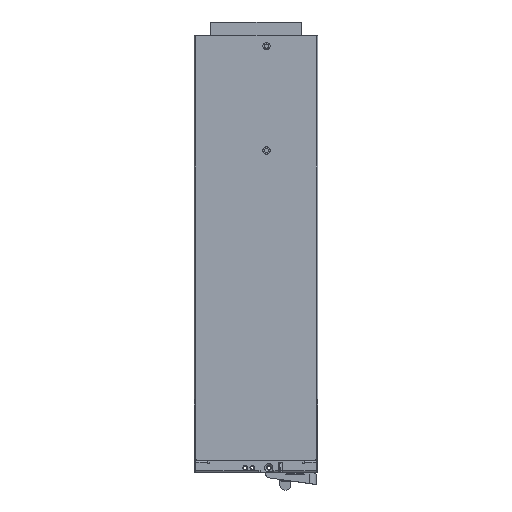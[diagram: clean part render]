
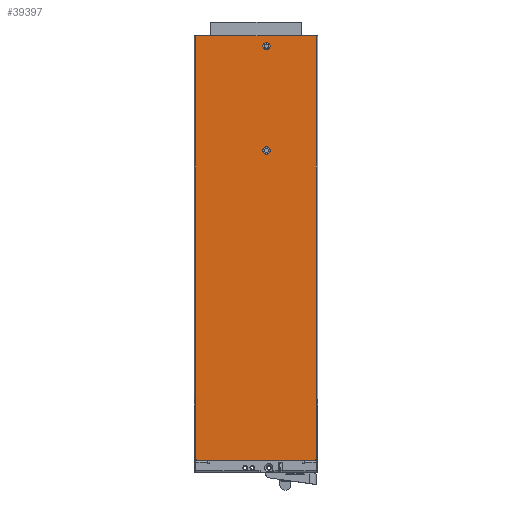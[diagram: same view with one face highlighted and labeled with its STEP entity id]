
A CAD part, top view. The second image highlights one B-rep face of the part: STEP entity #39397.
In plain terms, the highlighted planar face has unit normal (0, 0, 1) as drawn and (-1, 0, 0) by its records, which use the part's own axes.
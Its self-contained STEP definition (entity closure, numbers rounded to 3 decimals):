
#34458=DIRECTION('',(0.,1.,0.));
#34459=VECTOR('',#34458,249.8);
#34460=CARTESIAN_POINT('',(73.837,98.952,2.1));
#34461=LINE('',#34460,#34459);
#34472=DIRECTION('',(0.,1.,0.));
#34473=VECTOR('',#34472,41.1);
#34474=CARTESIAN_POINT('',(73.837,57.852,84.85));
#34475=LINE('',#34474,#34473);
#34479=CARTESIAN_POINT('',(73.837,57.852,83.85));
#34480=DIRECTION('',(-1.,0.,0.));
#34481=DIRECTION('',(0.,-1.,0.));
#34482=AXIS2_PLACEMENT_3D('',#34479,#34480,#34481);
#34487=CARTESIAN_POINT('',(73.837,57.852,3.15));
#34488=DIRECTION('',(-1.,0.,0.));
#34489=DIRECTION('',(0.,0.,-1.));
#34490=AXIS2_PLACEMENT_3D('',#34487,#34488,#34489);
#34495=CARTESIAN_POINT('',(73.837,341.689,50.75));
#34496=DIRECTION('',(1.,0.,0.));
#34497=DIRECTION('',(0.,-1.,0.));
#34498=AXIS2_PLACEMENT_3D('',#34495,#34496,#34497);
#34503=CARTESIAN_POINT('',(73.837,341.689,50.75));
#34504=DIRECTION('',(1.,0.,0.));
#34505=DIRECTION('',(0.,1.,0.));
#34506=AXIS2_PLACEMENT_3D('',#34503,#34504,#34505);
#34511=CARTESIAN_POINT('',(73.837,269.939,50.75));
#34512=DIRECTION('',(1.,0.,0.));
#34513=DIRECTION('',(0.,-1.,0.));
#34514=AXIS2_PLACEMENT_3D('',#34511,#34512,#34513);
#34519=CARTESIAN_POINT('',(73.837,269.939,50.75));
#34520=DIRECTION('',(1.,0.,0.));
#34521=DIRECTION('',(0.,1.,0.));
#34522=AXIS2_PLACEMENT_3D('',#34519,#34520,#34521);
#34534=DIRECTION('',(0.,1.,0.));
#34535=VECTOR('',#34534,41.1);
#34536=CARTESIAN_POINT('',(73.837,57.852,2.15));
#34537=LINE('',#34536,#34535);
#34556=DIRECTION('',(0.,0.,-1.));
#34557=VECTOR('',#34556,0.05);
#34558=CARTESIAN_POINT('',(73.837,98.952,2.15));
#34559=LINE('',#34558,#34557);
#34773=DIRECTION('',(0.,0.,-1.));
#34774=VECTOR('',#34773,0.05);
#34775=CARTESIAN_POINT('',(73.837,98.952,84.9));
#34776=LINE('',#34775,#34774);
#34872=DIRECTION('',(0.,0.,1.));
#34873=VECTOR('',#34872,82.8);
#34874=CARTESIAN_POINT('',(73.837,348.752,2.1));
#34875=LINE('',#34874,#34873);
#35116=DIRECTION('',(0.,-1.,0.));
#35117=VECTOR('',#35116,249.8);
#35118=CARTESIAN_POINT('',(73.837,348.752,84.9));
#35119=LINE('',#35118,#35117);
#35158=DIRECTION('',(0.,0.,-1.));
#35159=VECTOR('',#35158,80.7);
#35160=CARTESIAN_POINT('',(73.837,56.852,83.85));
#35161=LINE('',#35160,#35159);
#38681=CARTESIAN_POINT('',(73.837,98.952,2.1));
#38682=VERTEX_POINT('',#38681);
#38683=CARTESIAN_POINT('',(73.837,348.752,2.1));
#38684=VERTEX_POINT('',#38683);
#38721=CARTESIAN_POINT('',(73.837,348.752,84.9));
#38722=VERTEX_POINT('',#38721);
#38763=CARTESIAN_POINT('',(73.837,98.952,84.9));
#38764=VERTEX_POINT('',#38763);
#38765=CARTESIAN_POINT('',(73.837,56.852,83.85));
#38766=CARTESIAN_POINT('',(73.837,56.852,3.15));
#38767=VERTEX_POINT('',#38765);
#38768=VERTEX_POINT('',#38766);
#38775=CARTESIAN_POINT('',(73.837,98.952,84.85));
#38776=VERTEX_POINT('',#38775);
#38799=CARTESIAN_POINT('',(73.837,98.952,2.15));
#38800=VERTEX_POINT('',#38799);
#38801=CARTESIAN_POINT('',(73.837,57.852,2.15));
#38802=VERTEX_POINT('',#38801);
#38803=CARTESIAN_POINT('',(73.837,344.189,50.75));
#38804=CARTESIAN_POINT('',(73.837,339.189,50.75));
#38805=VERTEX_POINT('',#38803);
#38806=VERTEX_POINT('',#38804);
#38807=CARTESIAN_POINT('',(73.837,272.439,50.75));
#38808=CARTESIAN_POINT('',(73.837,267.439,50.75));
#38809=VERTEX_POINT('',#38807);
#38810=VERTEX_POINT('',#38808);
#38811=CARTESIAN_POINT('',(73.837,57.852,84.85));
#38812=VERTEX_POINT('',#38811);
#39359=CARTESIAN_POINT('',(73.837,92.252,2.15));
#39360=DIRECTION('',(-1.,0.,0.));
#39361=DIRECTION('',(0.,0.,1.));
#39362=AXIS2_PLACEMENT_3D('',#39359,#39360,#39361);
#39363=PLANE('',#39362);
#39365=ORIENTED_EDGE('',*,*,#39364,.T.);
#39367=ORIENTED_EDGE('',*,*,#39366,.T.);
#39368=ORIENTED_EDGE('',*,*,#39349,.T.);
#39370=ORIENTED_EDGE('',*,*,#39369,.T.);
#39372=ORIENTED_EDGE('',*,*,#39371,.T.);
#39374=ORIENTED_EDGE('',*,*,#39373,.T.);
#39376=ORIENTED_EDGE('',*,*,#39375,.F.);
#39378=ORIENTED_EDGE('',*,*,#39377,.F.);
#39380=ORIENTED_EDGE('',*,*,#39379,.T.);
#39382=ORIENTED_EDGE('',*,*,#39381,.F.);
#39383=EDGE_LOOP('',(#39365,#39367,#39368,#39370,#39372,#39374,#39376,#39378,
#39380,#39382));
#39384=FACE_OUTER_BOUND('',#39383,.F.);
#39386=ORIENTED_EDGE('',*,*,#39385,.F.);
#39388=ORIENTED_EDGE('',*,*,#39387,.F.);
#39389=EDGE_LOOP('',(#39386,#39388));
#39390=FACE_BOUND('',#39389,.F.);
#39392=ORIENTED_EDGE('',*,*,#39391,.F.);
#39394=ORIENTED_EDGE('',*,*,#39393,.F.);
#39395=EDGE_LOOP('',(#39392,#39394));
#39396=FACE_BOUND('',#39395,.F.);
#34483=CIRCLE('',#34482,1.);
#34491=CIRCLE('',#34490,1.);
#34499=CIRCLE('',#34498,2.5);
#34507=CIRCLE('',#34506,2.5);
#34515=CIRCLE('',#34514,2.5);
#34523=CIRCLE('',#34522,2.5);
#39349=EDGE_CURVE('',#38682,#38684,#34461,.T.);
#39364=EDGE_CURVE('',#38802,#38800,#34537,.T.);
#39366=EDGE_CURVE('',#38800,#38682,#34559,.T.);
#39369=EDGE_CURVE('',#38684,#38722,#34875,.T.);
#39371=EDGE_CURVE('',#38722,#38764,#35119,.T.);
#39373=EDGE_CURVE('',#38764,#38776,#34776,.T.);
#39375=EDGE_CURVE('',#38812,#38776,#34475,.T.);
#39377=EDGE_CURVE('',#38767,#38812,#34483,.T.);
#39379=EDGE_CURVE('',#38767,#38768,#35161,.T.);
#39381=EDGE_CURVE('',#38802,#38768,#34491,.T.);
#39385=EDGE_CURVE('',#38806,#38805,#34499,.T.);
#39387=EDGE_CURVE('',#38805,#38806,#34507,.T.);
#39391=EDGE_CURVE('',#38810,#38809,#34515,.T.);
#39393=EDGE_CURVE('',#38809,#38810,#34523,.T.);
#39397=ADVANCED_FACE('',(#39384,#39390,#39396),#39363,.T.);
